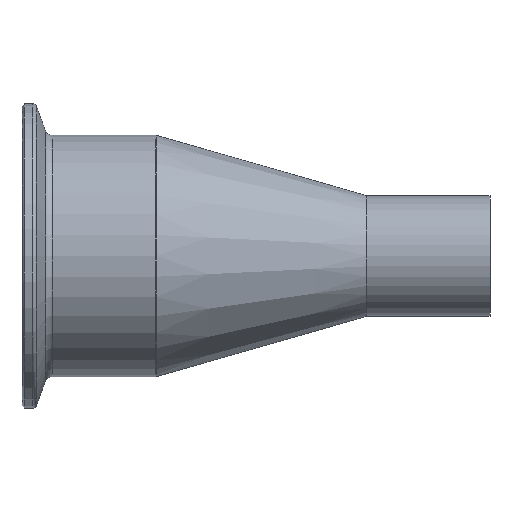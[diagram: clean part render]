
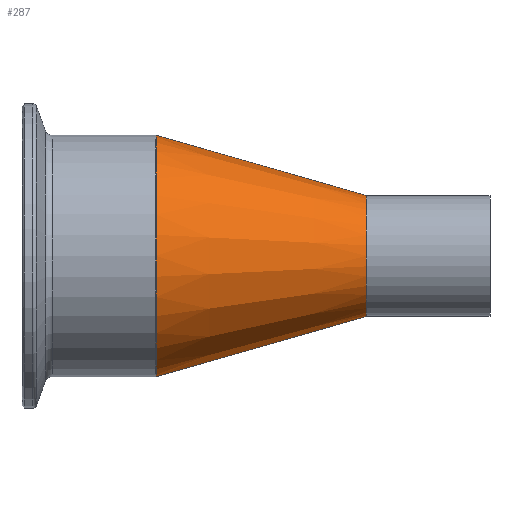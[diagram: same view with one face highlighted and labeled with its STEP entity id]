
A CAD part, top view. The second image highlights one B-rep face of the part: STEP entity #287.
In plain terms, the highlighted conical face has half-angle 16 degrees and reference radius 12.7 mm.
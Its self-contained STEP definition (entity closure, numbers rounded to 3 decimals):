
#16 = CARTESIAN_POINT ( 'NONE',  ( -70.182, 0., 0. ) ) ;
#21 = CARTESIAN_POINT ( 'NONE',  ( -70.182, 25.369, 0. ) ) ;
#36 = FACE_OUTER_BOUND ( 'NONE', #575, .T. ) ;
#39 = ORIENTED_EDGE ( 'NONE', *, *, #400, .F. ) ;
#74 = AXIS2_PLACEMENT_3D ( 'NONE', #16, #886, #867 ) ;
#250 = DIRECTION ( 'NONE',  ( -1., 0., 0. ) ) ;
#258 = CARTESIAN_POINT ( 'NONE',  ( -26., -12.7, 0. ) ) ;
#266 = CARTESIAN_POINT ( 'NONE',  ( -70.182, -25.369, 0. ) ) ;
#287 = ADVANCED_FACE ( 'NONE', ( #36 ), #686, .T. ) ;
#305 = CARTESIAN_POINT ( 'NONE',  ( -26., 0., 0. ) ) ;
#307 = EDGE_CURVE ( 'NONE', #632, #634, #862, .T. ) ;
#327 = DIRECTION ( 'NONE',  ( 0., 1., 0. ) ) ;
#336 = CARTESIAN_POINT ( 'NONE',  ( -26., 12.7, 0. ) ) ;
#348 = ORIENTED_EDGE ( 'NONE', *, *, #307, .T. ) ;
#379 = VECTOR ( 'NONE', #758, 1000. ) ;
#380 = DIRECTION ( 'NONE',  ( 0., -1., 0. ) ) ;
#400 = EDGE_CURVE ( 'NONE', #742, #485, #817, .T. ) ;
#401 = DIRECTION ( 'NONE',  ( 1., 0., 0. ) ) ;
#410 = LINE ( 'NONE', #832, #379 ) ;
#413 = CARTESIAN_POINT ( 'NONE',  ( -26., 0., 0. ) ) ;
#485 = VERTEX_POINT ( 'NONE', #258 ) ;
#493 = DIRECTION ( 'NONE',  ( -0.961, 0.276, 0. ) ) ;
#512 = AXIS2_PLACEMENT_3D ( 'NONE', #413, #401, #327 ) ;
#575 = EDGE_LOOP ( 'NONE', ( #39, #723, #348, #586 ) ) ;
#586 = ORIENTED_EDGE ( 'NONE', *, *, #770, .F. ) ;
#632 = VERTEX_POINT ( 'NONE', #21 ) ;
#634 = VERTEX_POINT ( 'NONE', #266 ) ;
#667 = EDGE_CURVE ( 'NONE', #742, #632, #874, .T. ) ;
#686 = CONICAL_SURFACE ( 'NONE', #893, 12.7, 0.279 ) ;
#723 = ORIENTED_EDGE ( 'NONE', *, *, #667, .T. ) ;
#742 = VERTEX_POINT ( 'NONE', #762 ) ;
#758 = DIRECTION ( 'NONE',  ( -0.961, -0.276, 0. ) ) ;
#762 = CARTESIAN_POINT ( 'NONE',  ( -26., 12.7, 0. ) ) ;
#770 = EDGE_CURVE ( 'NONE', #485, #634, #410, .T. ) ;
#817 = CIRCLE ( 'NONE', #512, 12.7 ) ;
#832 = CARTESIAN_POINT ( 'NONE',  ( -26., -12.7, 0. ) ) ;
#856 = VECTOR ( 'NONE', #493, 1000. ) ;
#862 = CIRCLE ( 'NONE', #74, 25.369 ) ;
#867 = DIRECTION ( 'NONE',  ( 0., 1., 0. ) ) ;
#874 = LINE ( 'NONE', #336, #856 ) ;
#886 = DIRECTION ( 'NONE',  ( 1., 0., 0. ) ) ;
#893 = AXIS2_PLACEMENT_3D ( 'NONE', #305, #250, #380 ) ;
